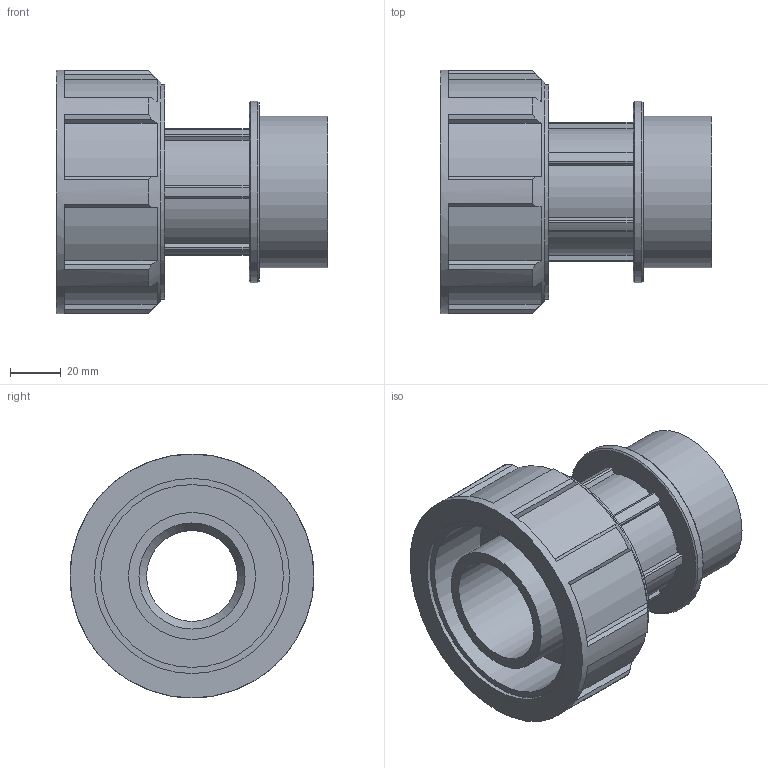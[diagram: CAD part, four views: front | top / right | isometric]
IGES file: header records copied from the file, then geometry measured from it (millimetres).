
Global section: file name: 072500050020_182500050020_0725060500200A.ipt; native system: Autodesk Inventor 2015; preprocessor: unknown; author: KIM; date: 20170608.042156; units: millimetre
Bounding box: 107 x 96 x 96 mm (x, y, z)
Volume: 236836.4 mm3; surface area: 69029.7 mm2
Topology: 1 solids, 1 shells, 108 faces, 300 edges, 202 vertices
Faces by surface type: plane 74, cylinder 25, revolution 6, cone 3
Full cylindrical faces by diameter (mm): 50 x1, 59.614 x1, 71.537 x1, 84.48 x1, 96 x1
